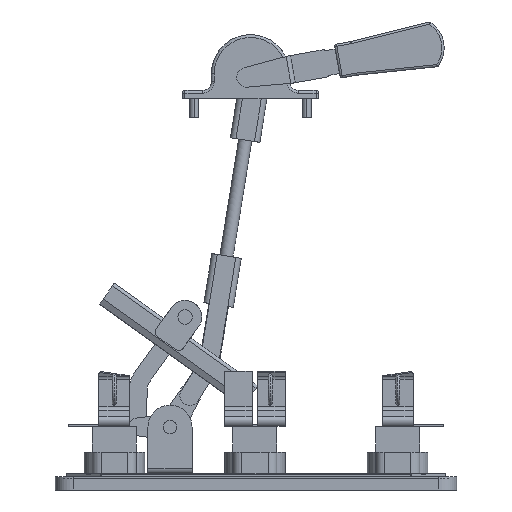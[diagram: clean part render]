
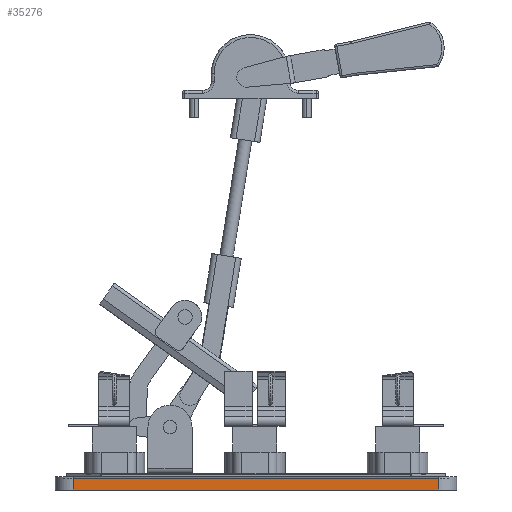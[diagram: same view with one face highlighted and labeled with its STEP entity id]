
A CAD part, left-side view. The second image highlights one B-rep face of the part: STEP entity #35276.
In plain terms, the highlighted planar face has unit normal (-1, 0, 0).
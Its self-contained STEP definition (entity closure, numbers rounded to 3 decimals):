
#352 = EDGE_CURVE ( 'NONE', #2903, #45700, #29902, .T. ) ;
#582 = CARTESIAN_POINT ( 'NONE',  ( -132., -243.8, -15. ) ) ;
#1680 = DIRECTION ( 'NONE',  ( 0., 0., -1. ) ) ;
#2903 = VERTEX_POINT ( 'NONE', #29660 ) ;
#5698 = EDGE_CURVE ( 'NONE', #31175, #2903, #17511, .T. ) ;
#5733 = DIRECTION ( 'NONE',  ( -1., 0., 0. ) ) ;
#10381 = PLANE ( 'NONE',  #35326 ) ;
#13178 = DIRECTION ( 'NONE',  ( 0., -1., 0. ) ) ;
#16209 = VECTOR ( 'NONE', #1680, 1000. ) ;
#16854 = EDGE_CURVE ( 'NONE', #45700, #39287, #39629, .T. ) ;
#17511 = LINE ( 'NONE', #30755, #16209 ) ;
#19009 = EDGE_CURVE ( 'NONE', #31175, #39287, #46478, .T. ) ;
#19367 = CARTESIAN_POINT ( 'NONE',  ( -132., -243.8, -3. ) ) ;
#19491 = ORIENTED_EDGE ( 'NONE', *, *, #16854, .T. ) ;
#25727 = CARTESIAN_POINT ( 'NONE',  ( -132., 104., -15. ) ) ;
#28285 = ORIENTED_EDGE ( 'NONE', *, *, #352, .T. ) ;
#29660 = CARTESIAN_POINT ( 'NONE',  ( -132., 87.8, -15. ) ) ;
#29822 = FACE_OUTER_BOUND ( 'NONE', #50847, .T. ) ;
#29902 = LINE ( 'NONE', #25727, #41834 ) ;
#30333 = VECTOR ( 'NONE', #35820, 1000. ) ;
#30755 = CARTESIAN_POINT ( 'NONE',  ( -132., 87.8, -15. ) ) ;
#31175 = VERTEX_POINT ( 'NONE', #34636 ) ;
#34636 = CARTESIAN_POINT ( 'NONE',  ( -132., 87.8, -3. ) ) ;
#35276 = ADVANCED_FACE ( 'NONE', ( #29822 ), #10381, .T. ) ;
#35296 = CARTESIAN_POINT ( 'NONE',  ( -132., 104., -15. ) ) ;
#35326 = AXIS2_PLACEMENT_3D ( 'NONE', #35296, #5733, #44017 ) ;
#35820 = DIRECTION ( 'NONE',  ( 0., 0., 1. ) ) ;
#39287 = VERTEX_POINT ( 'NONE', #19367 ) ;
#39629 = LINE ( 'NONE', #39892, #30333 ) ;
#39892 = CARTESIAN_POINT ( 'NONE',  ( -132., -243.8, -15. ) ) ;
#41834 = VECTOR ( 'NONE', #13178, 1000. ) ;
#44017 = DIRECTION ( 'NONE',  ( 0., -1., 0. ) ) ;
#45700 = VERTEX_POINT ( 'NONE', #582 ) ;
#45797 = VECTOR ( 'NONE', #53536, 1000. ) ;
#45917 = CARTESIAN_POINT ( 'NONE',  ( -132., 104., -3. ) ) ;
#46478 = LINE ( 'NONE', #45917, #45797 ) ;
#50440 = ORIENTED_EDGE ( 'NONE', *, *, #19009, .F. ) ;
#50847 = EDGE_LOOP ( 'NONE', ( #50440, #54592, #28285, #19491 ) ) ;
#53536 = DIRECTION ( 'NONE',  ( 0., -1., 0. ) ) ;
#54592 = ORIENTED_EDGE ( 'NONE', *, *, #5698, .T. ) ;
